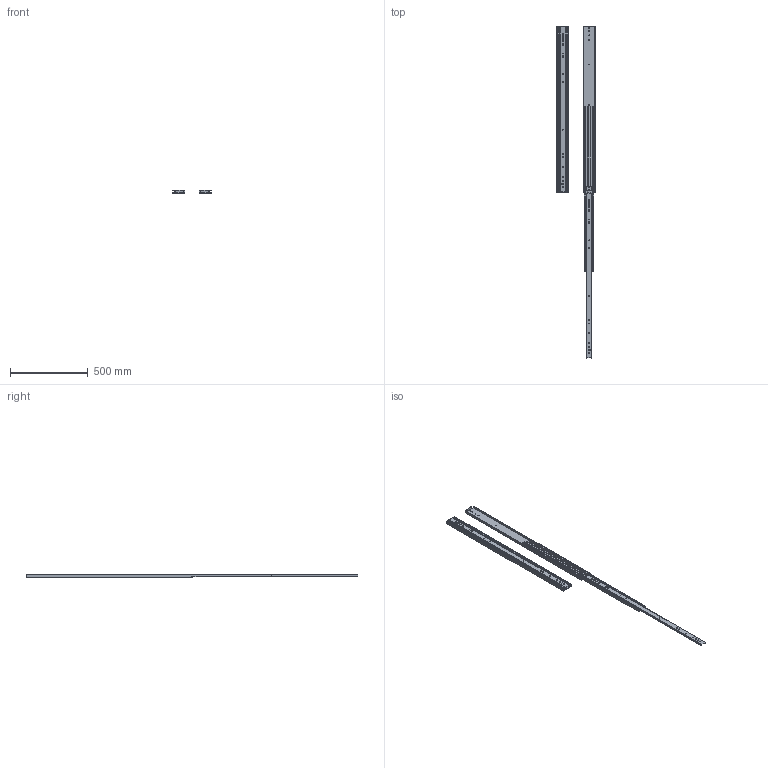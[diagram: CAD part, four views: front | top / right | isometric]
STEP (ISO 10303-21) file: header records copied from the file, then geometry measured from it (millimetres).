
FILE_DESCRIPTION((''),'2;1');
FILE_NAME('ASSEM1_1_2_3_4_5_6_7_8_9_10__17_ASM','2026-04-08T08:55:51',('T260078'),(''),'CREO PARAMETRIC BY PTC INC, 2025123','CREO PARAMETRIC BY PTC INC, 2025123','');
FILE_SCHEMA(('CONFIG_CONTROL_DESIGN','SHAPE_APPEARANCE_LAYERS_GROUPS'));
Length unit declared in the file: millimetre
Products named in the file (6): 76J01-42_X2_540B_X0_-M; 76J01-42_X2_540B_X0_-I; 76J01-42_X2_540B_X0_-O; 76J01-42_X2_540_X0__ASM; 76J01-42_X2_540B_X0_-_X2_5C5595_ASM; ASSEM1_1_2_3_4_5_6_7_8_9_10__17_ASM
Assembly tree (8 placements, depth 3):
  ASSEM1_1_2_3_4_5_6_7_8_9_10__17_ASM
    76J01-42_X2_540_X0__ASM
      76J01-42_X2_540B_X0_-M
      76J01-42_X2_540B_X0_-I
      76J01-42_X2_540B_X0_-O
    76J01-42_X2_540B_X0_-_X2_5C5595_ASM
      76J01-42_X2_540B_X0_-M
      76J01-42_X2_540B_X0_-I
      76J01-42_X2_540B_X0_-O
Bounding box: 245.44 x 2133.6 x 19.3 mm (x, y, z)
Volume: 1317663.6 mm3; surface area: 1175274.8 mm2
Topology: 6 solids, 6 shells, 412 faces, 1324 edges, 912 vertices
Faces by surface type: cylinder 212, plane 200
Entity records: 9017 total; most frequent: CARTESIAN_POINT 1373, DIRECTION 1354, ORIENTED_EDGE 1324, EDGE_CURVE 662, AXIS2_PLACEMENT_3D 475, VERTEX_POINT 456, VECTOR 404, LINE 404
